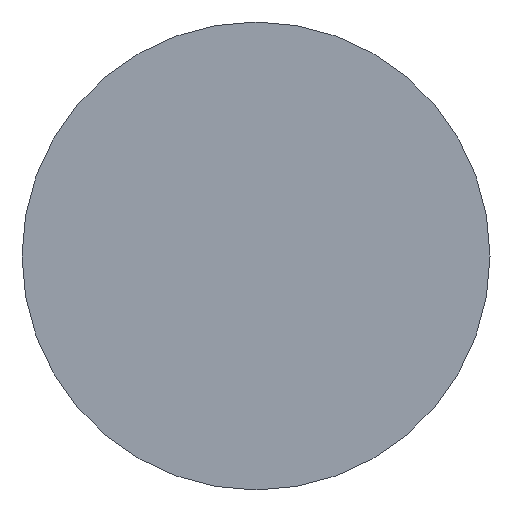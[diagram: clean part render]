
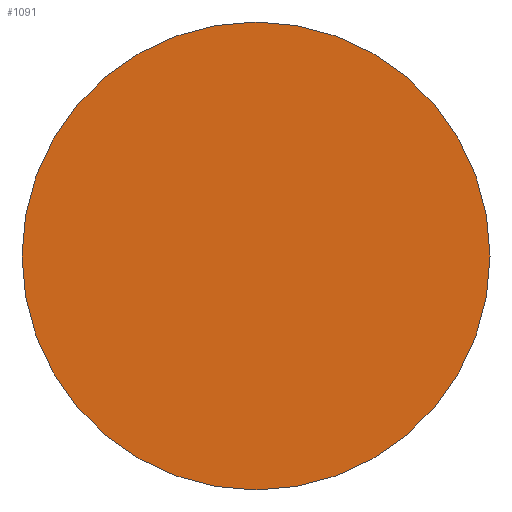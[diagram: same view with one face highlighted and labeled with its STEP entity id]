
A CAD part, front view. The second image highlights one B-rep face of the part: STEP entity #1091.
In plain terms, the highlighted planar face has unit normal (0, -1, 0).
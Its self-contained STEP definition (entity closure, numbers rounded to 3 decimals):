
#301 = DIRECTION ( 'NONE',  ( 0., -1., 0. ) ) ;
#538 = CARTESIAN_POINT ( 'NONE',  ( 0., -16., 0. ) ) ;
#552 = CIRCLE ( 'NONE', #3101, 20. ) ;
#629 = CARTESIAN_POINT ( 'NONE',  ( 20., -16., 0. ) ) ;
#677 = CARTESIAN_POINT ( 'NONE',  ( -20., -16., 0. ) ) ;
#689 = DIRECTION ( 'NONE',  ( 1., 0., 0. ) ) ;
#1091 = ADVANCED_FACE ( 'NONE', ( #1549 ), #1894, .T. ) ;
#1418 = DIRECTION ( 'NONE',  ( 1., 0., 0. ) ) ;
#1480 = DIRECTION ( 'NONE',  ( 0., -1., 0. ) ) ;
#1549 = FACE_OUTER_BOUND ( 'NONE', #3519, .T. ) ;
#1772 = VERTEX_POINT ( 'NONE', #677 ) ;
#1850 = ORIENTED_EDGE ( 'NONE', *, *, #3744, .T. ) ;
#1894 = PLANE ( 'NONE',  #1968 ) ;
#1968 = AXIS2_PLACEMENT_3D ( 'NONE', #2485, #301, #2794 ) ;
#1991 = VERTEX_POINT ( 'NONE', #629 ) ;
#2164 = EDGE_CURVE ( 'NONE', #1772, #1991, #4023, .T. ) ;
#2485 = CARTESIAN_POINT ( 'NONE',  ( 20., -16., 0. ) ) ;
#2549 = DIRECTION ( 'NONE',  ( 0., -1., 0. ) ) ;
#2621 = ORIENTED_EDGE ( 'NONE', *, *, #2164, .T. ) ;
#2794 = DIRECTION ( 'NONE',  ( 1., 0., 0. ) ) ;
#2891 = CARTESIAN_POINT ( 'NONE',  ( 0., -16., 0. ) ) ;
#3101 = AXIS2_PLACEMENT_3D ( 'NONE', #2891, #2549, #689 ) ;
#3519 = EDGE_LOOP ( 'NONE', ( #1850, #2621 ) ) ;
#3562 = AXIS2_PLACEMENT_3D ( 'NONE', #538, #1480, #1418 ) ;
#3744 = EDGE_CURVE ( 'NONE', #1991, #1772, #552, .T. ) ;
#4023 = CIRCLE ( 'NONE', #3562, 20. ) ;
